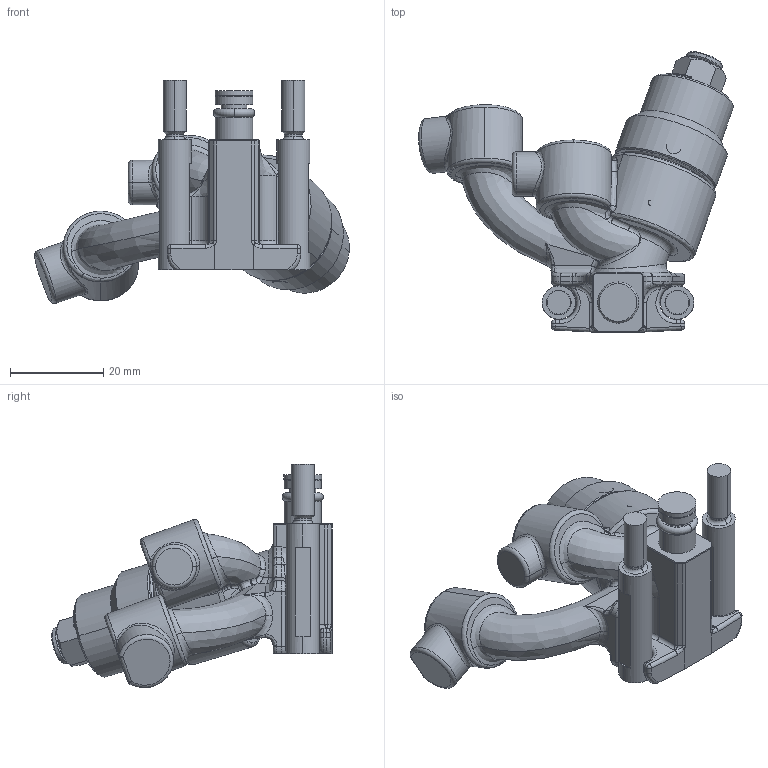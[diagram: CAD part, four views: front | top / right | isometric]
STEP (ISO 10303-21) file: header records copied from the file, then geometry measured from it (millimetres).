
FILE_DESCRIPTION((''),'2;1');
FILE_NAME('FXCC0100-EN-A_PRT','2022-06-21T15:06:36',('qufmd1'),(''),'CREO PARAMETRIC BY PTC INC, 2021072','CREO PARAMETRIC BY PTC INC, 2021072','');
FILE_SCHEMA(('CONFIG_CONTROL_DESIGN'));
Length unit declared in the file: inch
Products named in the file (1): FXCC0100-EN-A_PRT
Bounding box: 67.48 x 60.21 x 47.85 mm (x, y, z)
Surface area: 13868.3 mm2 (no closed solid volume)
Topology: 0 solids, 20 shells, 362 faces, 866 edges, 515 vertices
Faces by surface type: bspline 110, cylinder 99, plane 67, torus 37, cone 28, sphere 15, extrusion 6
Entity records: 17407 total; most frequent: CARTESIAN_POINT 9769, ORIENTED_EDGE 1650, DIRECTION 1476, EDGE_CURVE 865, AXIS2_PLACEMENT_3D 616, VERTEX_POINT 515, CIRCLE 370, EDGE_LOOP 362
